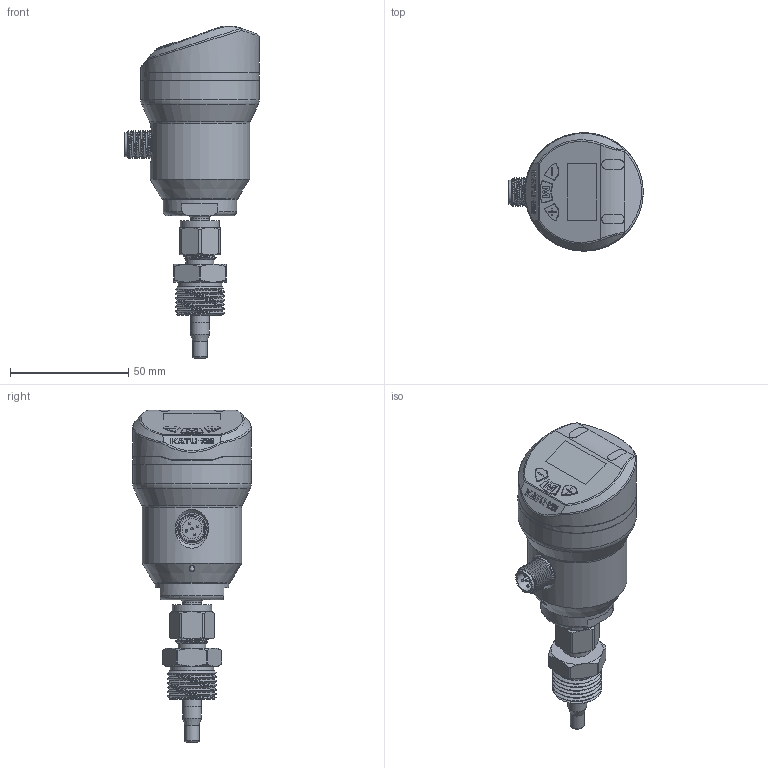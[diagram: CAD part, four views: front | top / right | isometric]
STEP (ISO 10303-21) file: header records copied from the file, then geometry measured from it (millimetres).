
FILE_DESCRIPTION( (''), '2;1');
FILE_NAME( 'QEKE_GL60_G1-2_compression-fitting.step', '2026-06-25T11:25:54+08:00', (''), (''), '', '', '');
FILE_SCHEMA (('AP203_CONFIGURATION_CONTROLLED_3D_DESIGN_OF_MECHANICAL_PARTS_AND_ASSEMBLIES_MIM_LF { 1 0 10303 403 2 1 2}'));
Length unit declared in the file: millimetre
Products named in the file (1): QEKE GL60_G1-2_compression-fitting
Bounding box: 56.7 x 50 x 140.09 mm (x, y, z)
Volume: 98629.9 mm3; surface area: 40264.5 mm2
Topology: 12 solids, 12 shells, 640 faces, 1595 edges, 1028 vertices
Faces by surface type: plane 332, cylinder 154, cone 62, bspline 50, torus 31, sphere 11
Full cylindrical faces by diameter (mm): 1 x10, 2.5 x1, 2.7 x5, 3.1 x1, 3.5 x2, 6 x2, 6.5 x1, 7 x1, 8 x2, 8.2 x1, 8.3 x1, 8.4 x1, 9.7 x1, 9.8 x1, 10.1 x1, 11 x1, 11.6 x1, 11.8 x1, 12 x1, 16.5 x1, 18.4 x1, 23 x3, 26.1 x5, 31 x1, 42 x1, 48 x1, 50 x3
Entity records: 26146 total; most frequent: CARTESIAN_POINT 10915, ORIENTED_EDGE 2908, DIRECTION 2859, EDGE_CURVE 1454, AXIS2_PLACEMENT_3D 1046, VERTEX_POINT 977, EDGE_LOOP 797, LINE 767
